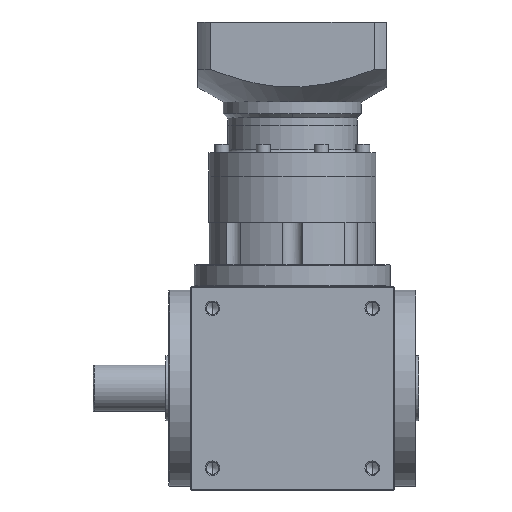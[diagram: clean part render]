
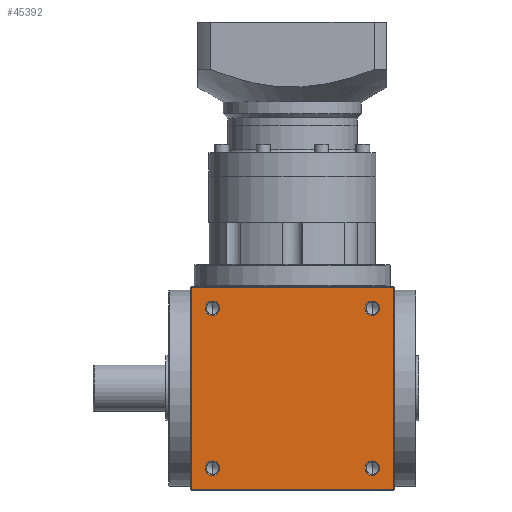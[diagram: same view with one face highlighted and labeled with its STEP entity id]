
A CAD part, front view. The second image highlights one B-rep face of the part: STEP entity #45392.
In plain terms, the highlighted planar face has unit normal (0, -1, 0).
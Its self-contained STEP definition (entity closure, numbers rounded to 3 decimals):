
#1076 = CIRCLE ( 'NONE', #6845, 5.025 ) ;
#1255 = DIRECTION ( 'NONE',  ( 0., 0., -1. ) ) ;
#1999 = EDGE_LOOP ( 'NONE', ( #24284, #18594 ) ) ;
#2023 = AXIS2_PLACEMENT_3D ( 'NONE', #54377, #28021, #1255 ) ;
#2062 = VERTEX_POINT ( 'NONE', #38963 ) ;
#3622 = CARTESIAN_POINT ( 'NONE',  ( -69.5, -70., 0.5 ) ) ;
#4423 = CARTESIAN_POINT ( 'NONE',  ( -69.5, -70., 139.5 ) ) ;
#4983 = CARTESIAN_POINT ( 'NONE',  ( 55., -70., 125. ) ) ;
#5506 = DIRECTION ( 'NONE',  ( 0., 1., 0. ) ) ;
#5828 = CARTESIAN_POINT ( 'NONE',  ( 55., -70., 125. ) ) ;
#6604 = CARTESIAN_POINT ( 'NONE',  ( -55., -70., 125. ) ) ;
#6667 = EDGE_CURVE ( 'NONE', #50381, #9405, #57282, .T. ) ;
#6845 = AXIS2_PLACEMENT_3D ( 'NONE', #38844, #12010, #43406 ) ;
#7014 = CARTESIAN_POINT ( 'NONE',  ( -55., -70., 130.025 ) ) ;
#7343 = CARTESIAN_POINT ( 'NONE',  ( -55., -70., 119.975 ) ) ;
#8586 = CIRCLE ( 'NONE', #49950, 5.025 ) ;
#8618 = EDGE_CURVE ( 'NONE', #22275, #50381, #35470, .T. ) ;
#8964 = CIRCLE ( 'NONE', #2023, 5.025 ) ;
#9405 = VERTEX_POINT ( 'NONE', #3622 ) ;
#9425 = DIRECTION ( 'NONE',  ( 0., 0., -1. ) ) ;
#9735 = DIRECTION ( 'NONE',  ( 0., -1., 0. ) ) ;
#10290 = DIRECTION ( 'NONE',  ( 0., 0., -1. ) ) ;
#10810 = ORIENTED_EDGE ( 'NONE', *, *, #41660, .F. ) ;
#11038 = EDGE_CURVE ( 'NONE', #50452, #50884, #40171, .T. ) ;
#11475 = FACE_BOUND ( 'NONE', #1999, .T. ) ;
#11522 = EDGE_CURVE ( 'NONE', #50884, #50452, #8586, .T. ) ;
#12010 = DIRECTION ( 'NONE',  ( 0., -1., 0. ) ) ;
#12382 = VERTEX_POINT ( 'NONE', #41695 ) ;
#12412 = EDGE_LOOP ( 'NONE', ( #14084, #55223 ) ) ;
#12425 = VECTOR ( 'NONE', #52932, 1000. ) ;
#12727 = AXIS2_PLACEMENT_3D ( 'NONE', #4983, #36281, #9425 ) ;
#13398 = EDGE_CURVE ( 'NONE', #9405, #51111, #37085, .T. ) ;
#14084 = ORIENTED_EDGE ( 'NONE', *, *, #30742, .F. ) ;
#14444 = AXIS2_PLACEMENT_3D ( 'NONE', #5828, #37153, #10290 ) ;
#14820 = EDGE_CURVE ( 'NONE', #22810, #2062, #24104, .T. ) ;
#15517 = EDGE_CURVE ( 'NONE', #23812, #12382, #30383, .T. ) ;
#15762 = DIRECTION ( 'NONE',  ( 0., -1., 0. ) ) ;
#16895 = DIRECTION ( 'NONE',  ( 0., -1., 0. ) ) ;
#18594 = ORIENTED_EDGE ( 'NONE', *, *, #37336, .F. ) ;
#18922 = ORIENTED_EDGE ( 'NONE', *, *, #6667, .F. ) ;
#20005 = DIRECTION ( 'NONE',  ( 0., 0., 1. ) ) ;
#20553 = DIRECTION ( 'NONE',  ( -1., 0., 0. ) ) ;
#20594 = ORIENTED_EDGE ( 'NONE', *, *, #15517, .F. ) ;
#20897 = EDGE_LOOP ( 'NONE', ( #18922, #52236, #10810, #55067 ) ) ;
#21340 = CARTESIAN_POINT ( 'NONE',  ( -70., -70., 0.5 ) ) ;
#22114 = VECTOR ( 'NONE', #20553, 1000. ) ;
#22275 = VERTEX_POINT ( 'NONE', #34252 ) ;
#22615 = CARTESIAN_POINT ( 'NONE',  ( 55., -70., 15. ) ) ;
#22810 = VERTEX_POINT ( 'NONE', #40603 ) ;
#22903 = VERTEX_POINT ( 'NONE', #41379 ) ;
#22933 = CARTESIAN_POINT ( 'NONE',  ( -55., -70., 20.025 ) ) ;
#23414 = FACE_BOUND ( 'NONE', #12412, .T. ) ;
#23809 = CARTESIAN_POINT ( 'NONE',  ( 69.5, -70., 140. ) ) ;
#23812 = VERTEX_POINT ( 'NONE', #22933 ) ;
#24104 = CIRCLE ( 'NONE', #12727, 5.025 ) ;
#24284 = ORIENTED_EDGE ( 'NONE', *, *, #32580, .F. ) ;
#24372 = LINE ( 'NONE', #57034, #12425 ) ;
#25379 = DIRECTION ( 'NONE',  ( 0., 0., -1. ) ) ;
#25397 = CARTESIAN_POINT ( 'NONE',  ( 55., -70., 9.975 ) ) ;
#25578 = AXIS2_PLACEMENT_3D ( 'NONE', #36602, #9735, #41101 ) ;
#27167 = DIRECTION ( 'NONE',  ( 0., 0., -1. ) ) ;
#27296 = AXIS2_PLACEMENT_3D ( 'NONE', #6604, #15762, #57358 ) ;
#27740 = AXIS2_PLACEMENT_3D ( 'NONE', #22615, #53541, #27167 ) ;
#28021 = DIRECTION ( 'NONE',  ( 0., -1., 0. ) ) ;
#28995 = CARTESIAN_POINT ( 'NONE',  ( 69.5, -70., 0.5 ) ) ;
#30383 = CIRCLE ( 'NONE', #25578, 5.025 ) ;
#30742 = EDGE_CURVE ( 'NONE', #2062, #22810, #45815, .T. ) ;
#32520 = DIRECTION ( 'NONE',  ( 0., 0., 1. ) ) ;
#32580 = EDGE_CURVE ( 'NONE', #48687, #22903, #44945, .T. ) ;
#33941 = FACE_BOUND ( 'NONE', #37703, .T. ) ;
#34252 = CARTESIAN_POINT ( 'NONE',  ( 69.5, -70., 139.5 ) ) ;
#35360 = FACE_BOUND ( 'NONE', #43071, .T. ) ;
#35470 = LINE ( 'NONE', #23809, #57288 ) ;
#36281 = DIRECTION ( 'NONE',  ( 0., -1., 0. ) ) ;
#36602 = CARTESIAN_POINT ( 'NONE',  ( -55., -70., 15. ) ) ;
#37085 = LINE ( 'NONE', #37793, #48834 ) ;
#37153 = DIRECTION ( 'NONE',  ( 0., -1., 0. ) ) ;
#37336 = EDGE_CURVE ( 'NONE', #22903, #48687, #1076, .T. ) ;
#37658 = ORIENTED_EDGE ( 'NONE', *, *, #11522, .F. ) ;
#37703 = EDGE_LOOP ( 'NONE', ( #37658, #50279 ) ) ;
#37793 = CARTESIAN_POINT ( 'NONE',  ( -69.5, -70., 140. ) ) ;
#38844 = CARTESIAN_POINT ( 'NONE',  ( 55., -70., 15. ) ) ;
#38963 = CARTESIAN_POINT ( 'NONE',  ( 55., -70., 119.975 ) ) ;
#40044 = ORIENTED_EDGE ( 'NONE', *, *, #50349, .F. ) ;
#40171 = CIRCLE ( 'NONE', #27296, 5.025 ) ;
#40603 = CARTESIAN_POINT ( 'NONE',  ( 55., -70., 130.025 ) ) ;
#41101 = DIRECTION ( 'NONE',  ( 0., 0., -1. ) ) ;
#41379 = CARTESIAN_POINT ( 'NONE',  ( 55., -70., 20.025 ) ) ;
#41660 = EDGE_CURVE ( 'NONE', #51111, #22275, #24372, .T. ) ;
#41695 = CARTESIAN_POINT ( 'NONE',  ( -55., -70., 9.975 ) ) ;
#43071 = EDGE_LOOP ( 'NONE', ( #40044, #20594 ) ) ;
#43406 = DIRECTION ( 'NONE',  ( 0., 0., -1. ) ) ;
#43778 = CARTESIAN_POINT ( 'NONE',  ( -55., -70., 125. ) ) ;
#44945 = CIRCLE ( 'NONE', #27740, 5.025 ) ;
#45392 = ADVANCED_FACE ( 'NONE', ( #23414, #33941, #11475, #35360, #57172 ), #50116, .F. ) ;
#45815 = CIRCLE ( 'NONE', #14444, 5.025 ) ;
#48116 = DIRECTION ( 'NONE',  ( 0., 0., -1. ) ) ;
#48687 = VERTEX_POINT ( 'NONE', #25397 ) ;
#48834 = VECTOR ( 'NONE', #20005, 1000. ) ;
#49950 = AXIS2_PLACEMENT_3D ( 'NONE', #43778, #16895, #48116 ) ;
#50116 = PLANE ( 'NONE',  #51756 ) ;
#50279 = ORIENTED_EDGE ( 'NONE', *, *, #11038, .F. ) ;
#50349 = EDGE_CURVE ( 'NONE', #12382, #23812, #8964, .T. ) ;
#50381 = VERTEX_POINT ( 'NONE', #28995 ) ;
#50452 = VERTEX_POINT ( 'NONE', #7014 ) ;
#50884 = VERTEX_POINT ( 'NONE', #7343 ) ;
#51111 = VERTEX_POINT ( 'NONE', #4423 ) ;
#51756 = AXIS2_PLACEMENT_3D ( 'NONE', #54393, #5506, #32520 ) ;
#52236 = ORIENTED_EDGE ( 'NONE', *, *, #8618, .F. ) ;
#52932 = DIRECTION ( 'NONE',  ( 1., 0., 0. ) ) ;
#53541 = DIRECTION ( 'NONE',  ( 0., -1., 0. ) ) ;
#54377 = CARTESIAN_POINT ( 'NONE',  ( -55., -70., 15. ) ) ;
#54393 = CARTESIAN_POINT ( 'NONE',  ( -70., -70., 140. ) ) ;
#55067 = ORIENTED_EDGE ( 'NONE', *, *, #13398, .F. ) ;
#55223 = ORIENTED_EDGE ( 'NONE', *, *, #14820, .F. ) ;
#57034 = CARTESIAN_POINT ( 'NONE',  ( -70., -70., 139.5 ) ) ;
#57172 = FACE_OUTER_BOUND ( 'NONE', #20897, .T. ) ;
#57282 = LINE ( 'NONE', #21340, #22114 ) ;
#57288 = VECTOR ( 'NONE', #25379, 1000. ) ;
#57358 = DIRECTION ( 'NONE',  ( 0., 0., -1. ) ) ;
